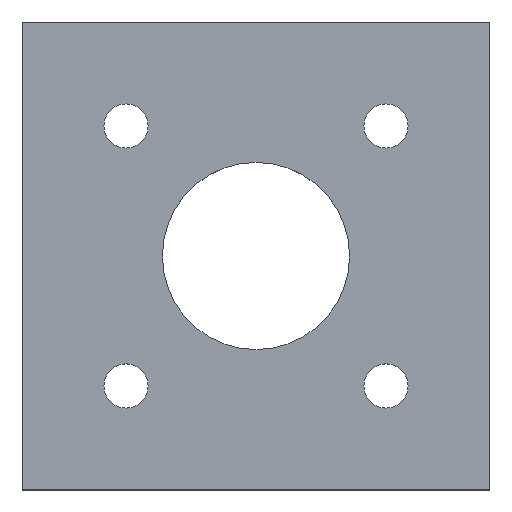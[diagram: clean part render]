
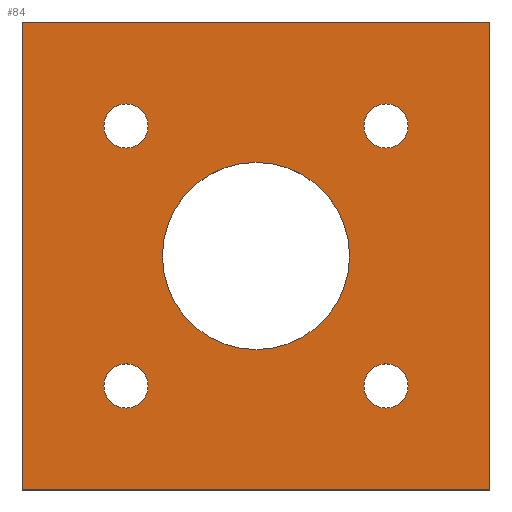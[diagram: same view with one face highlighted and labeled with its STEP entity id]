
A CAD part, top view. The second image highlights one B-rep face of the part: STEP entity #84.
In plain terms, the highlighted planar face has unit normal (0, 0, 1).
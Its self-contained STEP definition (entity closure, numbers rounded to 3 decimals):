
#49=FACE_BOUND('',#106,.T.);
#50=FACE_BOUND('',#107,.T.);
#51=FACE_BOUND('',#108,.T.);
#52=FACE_BOUND('',#109,.T.);
#53=FACE_BOUND('',#110,.T.);
#54=FACE_BOUND('',#111,.T.);
#69=CIRCLE('',#239,18.);
#71=CIRCLE('',#242,4.25);
#72=CIRCLE('',#243,4.25);
#73=CIRCLE('',#244,4.25);
#74=CIRCLE('',#245,4.25);
#84=ADVANCED_FACE('',(#49,#50,#51,#52,#53,#54),#94,.T.);
#94=PLANE('',#246);
#106=EDGE_LOOP('',(#144));
#107=EDGE_LOOP('',(#145));
#108=EDGE_LOOP('',(#146));
#109=EDGE_LOOP('',(#147));
#110=EDGE_LOOP('',(#148,#149,#150,#151));
#111=EDGE_LOOP('',(#152));
#144=ORIENTED_EDGE('',*,*,#202,.F.);
#145=ORIENTED_EDGE('',*,*,#203,.F.);
#146=ORIENTED_EDGE('',*,*,#204,.F.);
#147=ORIENTED_EDGE('',*,*,#205,.F.);
#148=ORIENTED_EDGE('',*,*,#190,.T.);
#149=ORIENTED_EDGE('',*,*,#194,.T.);
#150=ORIENTED_EDGE('',*,*,#197,.T.);
#151=ORIENTED_EDGE('',*,*,#199,.T.);
#152=ORIENTED_EDGE('',*,*,#200,.F.);
#172=VERTEX_POINT('',#317);
#173=VERTEX_POINT('',#319);
#175=VERTEX_POINT('',#325);
#177=VERTEX_POINT('',#331);
#178=VERTEX_POINT('',#338);
#180=VERTEX_POINT('',#343);
#181=VERTEX_POINT('',#345);
#182=VERTEX_POINT('',#347);
#183=VERTEX_POINT('',#349);
#190=EDGE_CURVE('',#173,#172,#212,.T.);
#194=EDGE_CURVE('',#172,#175,#216,.T.);
#197=EDGE_CURVE('',#175,#177,#219,.T.);
#199=EDGE_CURVE('',#177,#173,#221,.T.);
#200=EDGE_CURVE('',#178,#178,#69,.T.);
#202=EDGE_CURVE('',#180,#180,#71,.T.);
#203=EDGE_CURVE('',#181,#181,#72,.T.);
#204=EDGE_CURVE('',#182,#182,#73,.T.);
#205=EDGE_CURVE('',#183,#183,#74,.T.);
#212=LINE('',#318,#224);
#216=LINE('',#326,#228);
#219=LINE('',#332,#231);
#221=LINE('',#335,#233);
#224=VECTOR('',#260,1.);
#228=VECTOR('',#266,1.);
#231=VECTOR('',#271,1.);
#233=VECTOR('',#275,1.);
#239=AXIS2_PLACEMENT_3D('',#337,#278,#279);
#242=AXIS2_PLACEMENT_3D('',#342,#284,#285);
#243=AXIS2_PLACEMENT_3D('',#344,#286,#287);
#244=AXIS2_PLACEMENT_3D('',#346,#288,#289);
#245=AXIS2_PLACEMENT_3D('',#348,#290,#291);
#246=AXIS2_PLACEMENT_3D('',#350,#292,#293);
#260=DIRECTION('',(0.,1.,0.));
#266=DIRECTION('',(-1.,0.,0.));
#271=DIRECTION('',(0.,-1.,0.));
#275=DIRECTION('',(1.,0.,0.));
#278=DIRECTION('',(0.,0.,1.));
#279=DIRECTION('',(1.,0.,0.));
#284=DIRECTION('',(0.,0.,1.));
#285=DIRECTION('',(1.,0.,0.));
#286=DIRECTION('',(0.,0.,1.));
#287=DIRECTION('',(1.,0.,0.));
#288=DIRECTION('',(0.,0.,1.));
#289=DIRECTION('',(1.,0.,0.));
#290=DIRECTION('',(0.,0.,1.));
#291=DIRECTION('',(1.,0.,0.));
#292=DIRECTION('',(0.,0.,1.));
#293=DIRECTION('',(1.,0.,0.));
#317=CARTESIAN_POINT('',(45.,45.,40.));
#318=CARTESIAN_POINT('',(45.,-45.,40.));
#319=CARTESIAN_POINT('',(45.,-45.,40.));
#325=CARTESIAN_POINT('',(-45.,45.,40.));
#326=CARTESIAN_POINT('',(45.,45.,40.));
#331=CARTESIAN_POINT('',(-45.,-45.,40.));
#332=CARTESIAN_POINT('',(-45.,45.,40.));
#335=CARTESIAN_POINT('',(-45.,-45.,40.));
#337=CARTESIAN_POINT('',(0.,0.,40.));
#338=CARTESIAN_POINT('',(18.,0.,40.));
#342=CARTESIAN_POINT('',(25.,25.,40.));
#343=CARTESIAN_POINT('',(29.25,25.,40.));
#344=CARTESIAN_POINT('',(25.,-25.,40.));
#345=CARTESIAN_POINT('',(29.25,-25.,40.));
#346=CARTESIAN_POINT('',(-25.,-25.,40.));
#347=CARTESIAN_POINT('',(-20.75,-25.,40.));
#348=CARTESIAN_POINT('',(-25.,25.,40.));
#349=CARTESIAN_POINT('',(-20.75,25.,40.));
#350=CARTESIAN_POINT('',(0.,0.,40.));
